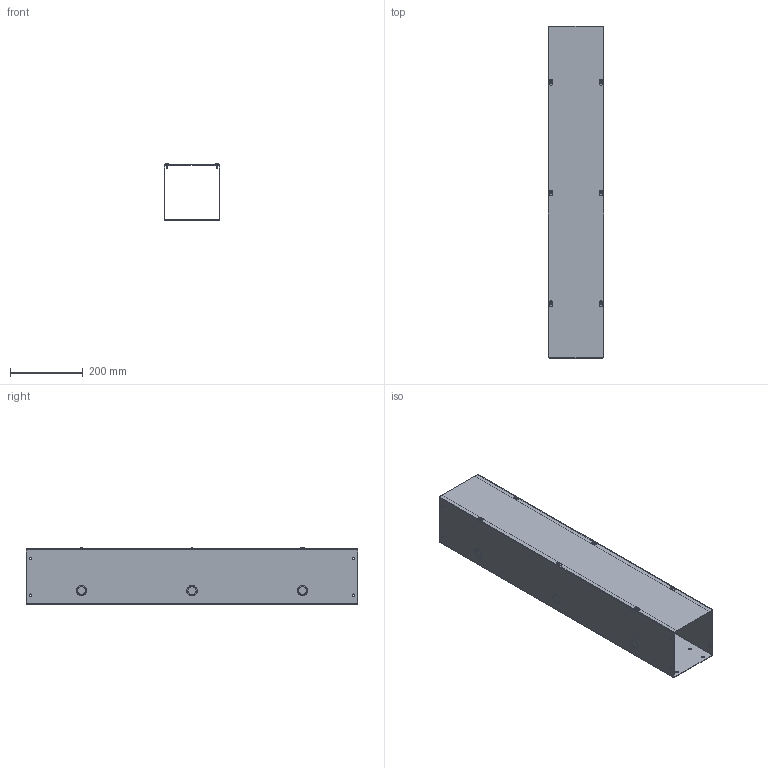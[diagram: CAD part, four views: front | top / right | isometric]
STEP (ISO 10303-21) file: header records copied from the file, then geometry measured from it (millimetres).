
FILE_DESCRIPTION(/* description */ ('1100SS 36" x 6" x 6" Assembly'),/* implementation_level */ '2;1');
FILE_NAME(/* name */ '1100SS6036SC.stp',/* time_stamp */ '2024-03-01T04:43:33-05:00',/* author */ ('BoxCad'),/* organization */ (''),/* preprocessor_version */ 'ST-DEVELOPER v20',/* originating_system */ 'Autodesk Inventor 2024',/* authorisation */ '');
FILE_SCHEMA (('AUTOMOTIVE_DESIGN { 1 0 10303 214 3 1 1 }'));
Length unit declared in the file: inch
Products named in the file (7): 1100SS6036SC; 1100SS6036SCB; 1100SS6036SCB-P; 1100SS6036SCC; 1100SS6036SCC-P; STK-P-02400S; STK-Q-05020
Assembly tree (12 placements, depth 3):
  1100SS6036SC
    1100SS6036SCB
      1100SS6036SCB-P
      STK-P-02400S
    1100SS6036SCC
      1100SS6036SCC-P
      STK-P-02400S
    STK-Q-05020  x6
Bounding box: 152.4 x 914.4 x 157.04 mm (x, y, z)
Volume: 793754.1 mm3; surface area: 1156295.1 mm2
Topology: 8 solids, 8 shells, 1704 faces, 4700 edges, 3018 vertices
Faces by surface type: plane 790, cylinder 494, torus 204, sphere 126, bspline 54, cone 36
Full cylindrical faces by diameter (mm): 4.496 x6, 7.137 x16, 9.5 x6
Entity records: 20680 total; most frequent: CARTESIAN_POINT 8931, ORIENTED_EDGE 2448, DIRECTION 2323, EDGE_CURVE 1224, AXIS2_PLACEMENT_3D 805, VERTEX_POINT 793, LINE 713, VECTOR 713
